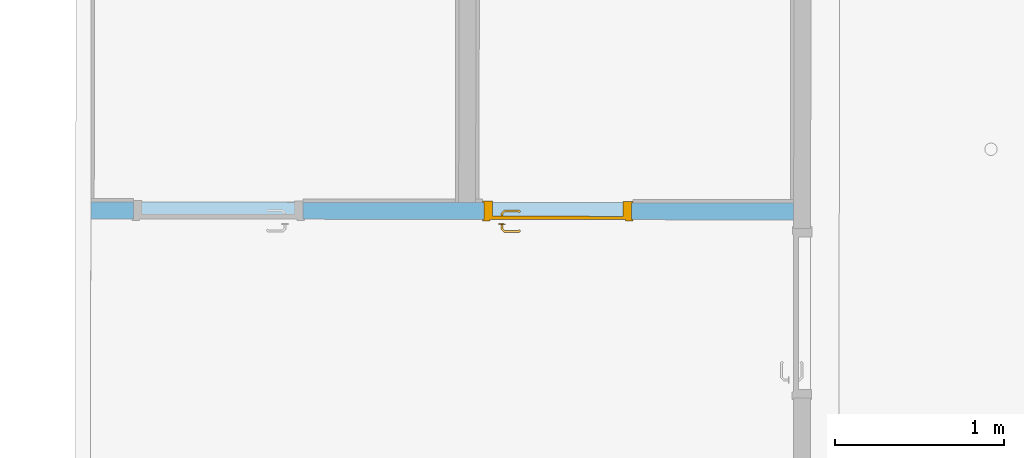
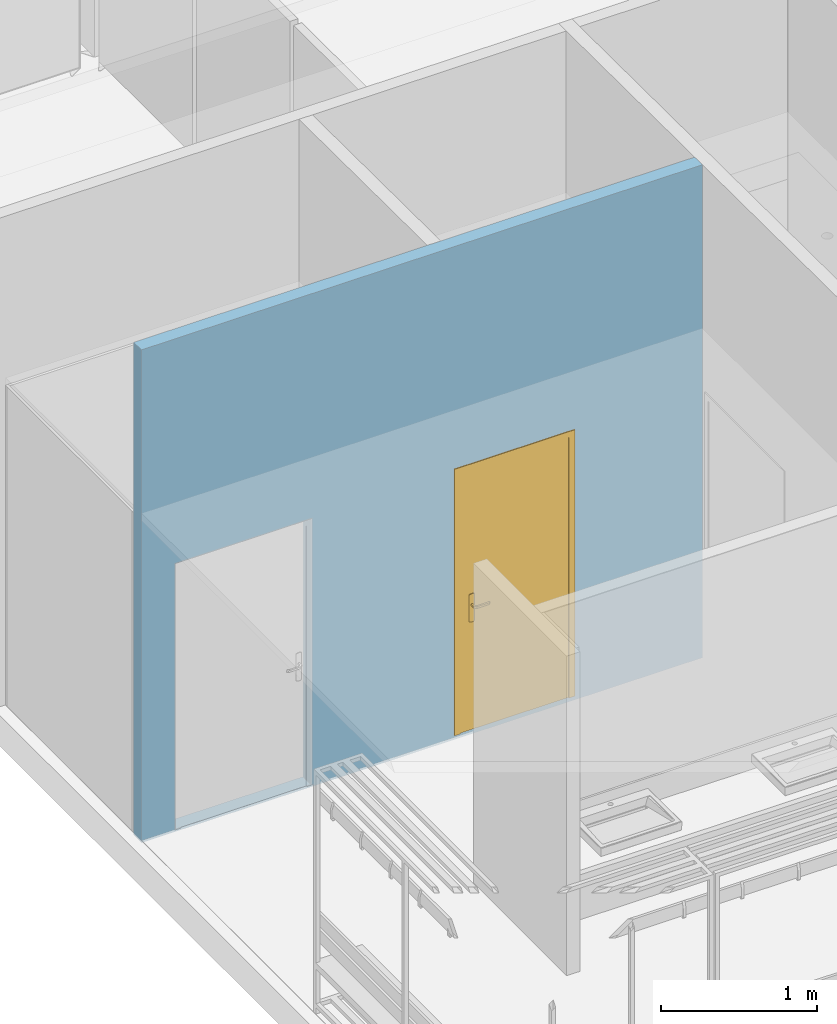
# One storey, part 23 of 43: 1 door, 2 openings, plus 1 element that does not belong to this part.
"""IFC2X3 building model written with IfcOpenShell, lengths in metres."""

from ifc_helpers import new_model, entity, si_unit, converted_unit, derived_unit, direction, frame, frame_2d, origin, place, context, subcontext, project, spatial, polyline, rectangle, outline, extrude, clip, bounded_halfspace, faceted_brep, source, transform, mapped, material, material_list, layer, layer_set, layer_usage, type_object, type_shapes, element, fill, save


model = new_model("IFC2X3")

# Units and contexts
model_context = context("Model", 3, precision=1e-05, world=origin(), true_north=direction((6.123233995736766e-17, 1.0)))
body_context = subcontext(model_context, "Body", "Model", "MODEL_VIEW")
ifc_project = project(units=[si_unit("LENGTHUNIT", "METRE"), si_unit("AREAUNIT", "SQUARE_METRE"), converted_unit("PLANEANGLEUNIT", "DEGREE", entity("IfcPlaneAngleMeasure", 0.017453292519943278), si_unit("PLANEANGLEUNIT", "RADIAN"), dimensions=[0, 0, 0, 0, 0, 0, 0]), derived_unit("THERMALTRANSMITTANCEUNIT", [(si_unit("MASSUNIT", "GRAM", prefix="KILO"), 1), (si_unit("THERMODYNAMICTEMPERATUREUNIT", "KELVIN"), -1), (si_unit("TIMEUNIT", "SECOND"), -3)])], contexts=[model_context])

# Site, building, storey
site_placement = place(None, frame((1253.6752467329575, 2072.143113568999, 91.49999999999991), z_axis=(0.0, 0.0, 1.0), x_axis=(0.7237211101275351, 0.6900925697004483, 0.0)))
site = spatial("IfcSite", under=ifc_project, at=site_placement, Name="Surface", CompositionType="ELEMENT")
building_placement = place(site_placement, origin())
building = spatial("IfcBuilding", under=site, at=building_placement, CompositionType="ELEMENT")
storey_placement = place(building_placement, frame((0.0, 0.0, -4.629999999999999)))
storey = spatial("IfcBuildingStorey", under=building, at=storey_placement, Name="rez de rue -1.10m", CompositionType="ELEMENT", Elevation=-4.629999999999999)

# Wall, openings, door
ifc_material_1 = material(Name="OMD_Cloison 100mm")
ifc_layer = layer(ifc_material_1, 0.1)
ifc_layer_set = layer_set([ifc_layer], Name="Mur de base:Cloison 100mm")
ifc_layer_usage = layer_usage(ifc_layer_set, "AXIS2", "NEGATIVE", 0.05)
wall_type = type_object("IfcWallType", Name="Mur de base:Cloison 100mm", PredefinedType="STANDARD", material=ifc_layer_set)
wall_placement = place(storey_placement, frame((163.2212890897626, 4.33212584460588, -0.019999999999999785), z_axis=(0.0, 0.0, 1.0), x_axis=(0.7227070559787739, -0.6911544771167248, 0.0)))
wall = element("IfcWallStandardCase", 1, at=wall_placement, inside=storey, type_object=wall_type, material=ifc_layer_usage, Name="Mur de base:Cloison 100mm", ObjectType="Mur de base:Cloison 100mm", context=body_context, shape_type="Clipping", body=[
    clip(clip(extrude(outline(polyline([(4.147726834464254, -0.05000000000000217), (4.14772683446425, 0.049999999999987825), (0.0, 0.04999999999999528), (2.3611774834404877e-05, -0.04999999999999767), (4.147726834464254, -0.05000000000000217)])), origin(), (0.0, 0.0, 1.0), 3.8572116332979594), bounded_halfspace(frame((4.147726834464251, -0.05000000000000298, 3.8572116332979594), z_axis=(0.0, 0.00890106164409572, 0.9999603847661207), x_axis=(-1.0, 0.0, 0.0)), False, frame((4.147726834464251, -0.05000000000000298, 3.8572116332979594)), polyline([(0.0, 0.0), (0.0, 0.09999999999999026), (-1.011275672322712, 0.09999999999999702), (-1.0105571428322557, 0.0), (0.0, 0.0)]))), bounded_halfspace(frame((0.0, 0.04999999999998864, 3.8559203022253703), z_axis=(-0.00012790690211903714, 0.008900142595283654, 0.9999603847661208), x_axis=(-0.9998967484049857, -0.014369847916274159, 0.0)), False, frame((0.0, 0.04999999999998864, 3.8559203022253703)), polyline([(0.0, 0.0), (2.361177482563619e-05, -0.09999999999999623), (3.1371696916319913, -0.10000000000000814), (3.136451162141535, 0.0), (2.270801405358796, 0.0), (2.1708014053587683, 0.0), (0.0, 0.0)]))),
])
opening_1_placement = place(wall_placement, frame((1.2515590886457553, 0.049999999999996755, 0.019999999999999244)))
element("IfcOpeningElement", 2, at=opening_1_placement, cuts=wall, Name="Grz_porte 1V recouvrement 30°:93x204:1", ObjectType="Opening", context=body_context, shape_type="SweptSolid", body=[
    extrude(rectangle(XDim=2.0749999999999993, YDim=0.999999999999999, at=frame_2d((1.0374999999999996, 0.4999999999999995), x_axis=(1.0, 0.0))), frame((0.0, 0.0, 0.0), z_axis=(0.0, -1.0, 0.0), x_axis=(0.0, 0.0, 1.0)), (0.0, 0.0, 1.0), 0.1),
])
opening_2_placement = place(wall_placement, frame((3.1908014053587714, 0.050000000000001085, 0.03499999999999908)))
opening_2 = element("IfcOpeningElement", 3, at=opening_2_placement, cuts=wall, Name="Grz_porte 1V recouvrement 30°:80x204:1", ObjectType="Opening", context=body_context, shape_type="SweptSolid", body=[
    extrude(rectangle(XDim=2.0749999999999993, YDim=0.8699999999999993, at=frame_2d((1.0374999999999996, 0.43500000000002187), x_axis=(1.0, 0.0))), frame((0.0, 0.0, 0.0), z_axis=(0.0, -1.0, 0.0), x_axis=(0.0, 0.0, 1.0)), (0.0, 0.0, 1.0), 0.1),
])
ifc_material_2 = material(Name="Porte - Poignée")
ifc_material_3 = material(Name="OMD_RAL1032")
ifc_material_list = material_list([ifc_material_2, ifc_material_3])
door_style = type_object("IfcDoorStyle", Name="Grz_porte 1V recouvrement 30°:80x204", ConstructionType="NOTDEFINED", OperationType="SINGLE_SWING_RIGHT", ParameterTakesPrecedence=False, Sizeable=False, material=ifc_material_list)
shared_shape = source(origin(), body_context, "Body", "Brep", [
    faceted_brep([(0.10297470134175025, 0.009999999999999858, 0.9922195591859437), (0.107025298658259, 0.009999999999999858, 0.992219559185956), (0.1110000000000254, 0.009999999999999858, 0.9930000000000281), (0.1110000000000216, 0.009999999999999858, 1.0069999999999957), (0.10702529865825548, 0.009999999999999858, 1.007780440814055), (0.10297470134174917, 0.009999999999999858, 1.0077804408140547), (0.0989999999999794, 0.009999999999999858, 1.0069999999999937), (0.09899999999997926, 0.009999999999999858, 0.9929999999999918), (0.1110000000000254, 0.03248520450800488, 0.9930000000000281), (0.11100000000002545, 0.03248520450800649, 1.0069999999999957), (0.10702529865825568, 0.03413157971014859, 1.007780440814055), (0.12083890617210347, 0.04794518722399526, 1.0077804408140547), (0.11916109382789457, 0.051995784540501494, 1.0077804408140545), (0.10297470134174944, 0.03580939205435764, 1.0077804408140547), (0.2106847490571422, 0.041467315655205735, 1.0077804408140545), (0.21354895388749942, 0.044331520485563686, 1.0077804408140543), (0.2058846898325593, 0.05199578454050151, 1.0077804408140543), (0.20420687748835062, 0.04794518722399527, 1.0077804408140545), (0.09899999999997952, 0.037455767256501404, 1.0069999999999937), (0.09899999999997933, 0.037455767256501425, 0.9929999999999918), (0.10297470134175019, 0.03580939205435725, 0.9922195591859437), (0.11916109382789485, 0.05199578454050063, 0.9922195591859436), (0.12083890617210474, 0.04794518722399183, 0.9922195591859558), (0.10702529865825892, 0.03413157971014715, 0.992219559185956), (0.21354895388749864, 0.0443315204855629, 0.9922195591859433), (0.2106847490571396, 0.04146731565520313, 0.9922195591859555), (0.20420687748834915, 0.047945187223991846, 0.9922195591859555), (0.20588468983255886, 0.051995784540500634, 0.9922195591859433), (0.12248528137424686, 0.04397048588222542, 0.993000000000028), (0.12248528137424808, 0.04397048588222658, 1.0069999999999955), (0.11751471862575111, 0.05597048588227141, 1.0069999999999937), (0.11751471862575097, 0.055970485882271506, 0.9929999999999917), (0.16252289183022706, 0.0439704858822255, 0.9930000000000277), (0.20256050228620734, 0.04397048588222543, 0.9930000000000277), (0.20256050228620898, 0.04397048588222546, 1.0069999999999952), (0.16252289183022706, 0.04397048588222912, 1.0069999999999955), (0.16252289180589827, 0.05012492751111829, 1.007878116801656), (0.20753106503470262, 0.05597048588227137, 1.0069999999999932), (0.16760057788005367, 0.05597048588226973, 1.006999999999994), (0.20753106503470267, 0.05597048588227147, 0.9929999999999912), (0.15744520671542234, 0.05597048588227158, 0.9929999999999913), (0.16252289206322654, 0.05012492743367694, 0.9921218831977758), (0.20787421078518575, 0.03865677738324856, 0.9930000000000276), (0.21635949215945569, 0.0471420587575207, 0.9929999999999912), (0.21635949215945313, 0.04714205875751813, 1.0069999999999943), (0.2078742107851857, 0.0386567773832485, 1.0069999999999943)], [[[0, 1, 2, 3, 4, 5, 6, 7]], [[3, 2, 8, 9]], [[9, 10, 4, 3]], [[10, 11, 12, 13, 5, 4]], [[14, 15, 16, 17]], [[13, 18, 6, 5]], [[7, 6, 18, 19]], [[19, 20, 0, 7]], [[20, 21, 22, 23, 1, 0]], [[24, 25, 26, 27]], [[23, 8, 2, 1]], [[9, 8, 28, 29]], [[29, 11, 10, 9]], [[12, 30, 18, 13]], [[19, 18, 30, 31]], [[31, 21, 20, 19]], [[22, 28, 8, 23]], [[29, 28, 32, 33, 34, 35]], [[11, 35, 36]], [[16, 37, 38]], [[30, 12, 38]], [[38, 12, 36]], [[36, 35, 17]], [[17, 16, 36]], [[35, 11, 29]], [[34, 17, 35]], [[11, 36, 12]], [[38, 36, 16]], [[31, 30, 38, 37, 39, 40]], [[40, 41, 21]], [[41, 40, 27]], [[21, 31, 40]], [[39, 27, 40]], [[41, 32, 22]], [[22, 21, 41]], [[26, 32, 41]], [[28, 22, 32]], [[32, 26, 33]], [[26, 41, 27]], [[42, 25, 24, 43, 44, 15, 14, 45]], [[34, 33, 42, 45]], [[45, 14, 17, 34]], [[15, 44, 37, 16]], [[39, 37, 44, 43]], [[43, 24, 27, 39]], [[25, 42, 33, 26]]]),
    faceted_brep([(0.10297470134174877, -0.030000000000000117, 1.0077804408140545), (0.107025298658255, -0.030000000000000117, 1.007780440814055), (0.1110000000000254, -0.030000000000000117, 1.0069999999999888), (0.11100000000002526, -0.030000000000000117, 0.9930000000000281), (0.10702529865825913, -0.030000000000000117, 0.992219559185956), (0.10297470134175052, -0.030000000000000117, 0.9922195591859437), (0.09899999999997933, -0.030000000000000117, 0.9929999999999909), (0.09899999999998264, -0.030000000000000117, 1.0069999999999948), (0.09899999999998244, -0.05765095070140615, 1.0069999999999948), (0.10297470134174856, -0.056004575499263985, 1.0077804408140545), (0.1190235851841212, -0.07205345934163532, 1.0077804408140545), (0.12070139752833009, -0.06800286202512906, 1.0077804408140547), (0.1070252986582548, -0.05432676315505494, 1.007780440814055), (0.2135218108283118, -0.06438919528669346, 1.007780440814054), (0.21065760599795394, -0.0615249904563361, 1.0077804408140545), (0.20417973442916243, -0.06800286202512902, 1.0077804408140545), (0.2058575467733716, -0.07205345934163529, 1.007780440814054), (0.11100000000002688, -0.052680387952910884, 1.0069999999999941), (0.11100000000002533, -0.052680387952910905, 0.9930000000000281), (0.10702529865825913, -0.05432676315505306, 0.992219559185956), (0.12070139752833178, -0.06800286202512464, 0.9922195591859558), (0.11902358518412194, -0.07205345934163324, 0.9922195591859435), (0.10297470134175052, -0.056004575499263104, 0.9922195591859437), (0.21065760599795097, -0.06152499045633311, 0.9922195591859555), (0.21352181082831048, -0.06438919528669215, 0.9922195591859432), (0.20585754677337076, -0.07205345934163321, 0.9922195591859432), (0.2041797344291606, -0.06800286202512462, 0.9922195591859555), (0.09899999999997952, -0.05765095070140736, 0.9929999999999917), (0.11737720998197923, -0.07602816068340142, 1.0069999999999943), (0.12234777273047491, -0.06402816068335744, 1.0069999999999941), (0.12234777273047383, -0.06402816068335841, 0.993000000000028), (0.11737720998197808, -0.07602816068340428, 0.9929999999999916), (0.1573076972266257, -0.07602816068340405, 1.0069999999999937), (0.16244056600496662, -0.07018280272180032, 1.0078781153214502), (0.20750392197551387, -0.0760281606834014, 1.0069999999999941), (0.1624405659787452, -0.06402816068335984, 1.0069999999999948), (0.2025333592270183, -0.06402816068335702, 1.0069999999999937), (0.20253335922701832, -0.06402816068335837, 0.9930000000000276), (0.16244056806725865, -0.0640281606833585, 0.9930000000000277), (0.16244056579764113, -0.07018280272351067, 0.9921218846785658), (0.20750392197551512, -0.07602816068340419, 0.9929999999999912), (0.16757342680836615, -0.07602816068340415, 0.9929999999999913), (0.20784706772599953, -0.058714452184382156, 1.0069999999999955), (0.21633234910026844, -0.06719973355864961, 1.0069999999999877), (0.21633234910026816, -0.06719973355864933, 0.9929999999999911), (0.2078470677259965, -0.058714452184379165, 0.993000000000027)], [[[0, 1, 2, 3, 4, 5, 6, 7]], [[8, 9, 0, 7]], [[9, 10, 11, 12, 1, 0]], [[13, 14, 15, 16]], [[12, 17, 2, 1]], [[3, 2, 17, 18]], [[18, 19, 4, 3]], [[19, 20, 21, 22, 5, 4]], [[23, 24, 25, 26]], [[22, 27, 6, 5]], [[7, 6, 27, 8]], [[28, 10, 9, 8]], [[11, 29, 17, 12]], [[18, 17, 29, 30]], [[30, 20, 19, 18]], [[21, 31, 27, 22]], [[8, 27, 31, 28]], [[32, 33, 10]], [[33, 32, 16]], [[10, 28, 32]], [[34, 16, 32]], [[33, 35, 11]], [[11, 10, 33]], [[15, 35, 33]], [[29, 11, 35]], [[35, 15, 36]], [[15, 33, 16]], [[29, 35, 36, 37, 38, 30]], [[20, 38, 39]], [[25, 40, 41]], [[31, 21, 41]], [[41, 21, 39]], [[39, 38, 26]], [[26, 25, 39]], [[38, 20, 30]], [[37, 26, 38]], [[20, 39, 21]], [[41, 39, 25]], [[28, 31, 41, 40, 34, 32]], [[42, 14, 13, 43, 44, 24, 23, 45]], [[43, 13, 16, 34]], [[14, 42, 36, 15]], [[37, 36, 42, 45]], [[45, 23, 26, 37]], [[24, 44, 40, 25]], [[34, 40, 44, 43]]]),
    faceted_brep([(0.1153527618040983, 0.004999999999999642, 0.8660039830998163), (0.12499999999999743, 0.004999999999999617, 0.8700000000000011), (0.12499999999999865, 0.004999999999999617, 1.0800000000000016), (0.11535276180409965, 0.004999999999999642, 1.0839960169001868), (0.10499999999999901, 0.004999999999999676, 1.085358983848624), (0.09464723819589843, 0.0049999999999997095, 1.0839960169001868), (0.08499999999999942, 0.004999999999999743, 1.0800000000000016), (0.0849999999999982, 0.004999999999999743, 0.8700000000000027), (0.09464723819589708, 0.0049999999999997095, 0.8660039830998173), (0.10499999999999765, 0.004999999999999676, 0.8646410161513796), (0.11535276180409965, 0.009999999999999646, 1.0839960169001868), (0.12499999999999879, 0.009999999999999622, 1.0800000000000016), (0.12499999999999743, 0.009999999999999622, 0.8700000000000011), (0.1153527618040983, 0.009999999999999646, 0.8660039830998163), (0.10499999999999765, 0.009999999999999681, 0.8646410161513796), (0.09464723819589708, 0.009999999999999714, 0.8660039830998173), (0.08499999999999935, 0.009999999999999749, 0.870000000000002), (0.08499999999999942, 0.009999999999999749, 1.0800000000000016), (0.09464723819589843, 0.009999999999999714, 1.0839960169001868), (0.10499999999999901, 0.009999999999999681, 1.085358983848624)], [[[0, 1, 2, 3, 4, 5, 6, 7, 8, 9]], [[10, 11, 12, 13, 14, 15, 16, 17, 18, 19]], [[11, 10, 3, 2]], [[3, 10, 19, 4]], [[19, 18, 5, 4]], [[18, 17, 6, 5]], [[7, 6, 17, 16]], [[16, 15, 8, 7]], [[8, 15, 14, 9]], [[14, 13, 0, 9]], [[13, 12, 1, 0]], [[2, 1, 12, 11]]]),
    faceted_brep([(0.11535276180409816, -0.03000000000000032, 0.8660039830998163), (0.12499999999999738, -0.030000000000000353, 0.8700000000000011), (0.12499999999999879, -0.030000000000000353, 1.0800000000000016), (0.11535276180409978, -0.03000000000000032, 1.0839960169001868), (0.10499999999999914, -0.030000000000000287, 1.085358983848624), (0.0946472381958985, -0.030000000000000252, 1.0839960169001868), (0.08499999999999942, -0.030000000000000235, 1.0800000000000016), (0.08499999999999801, -0.030000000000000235, 0.8700000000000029), (0.09464723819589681, -0.030000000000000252, 0.8660039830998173), (0.10499999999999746, -0.030000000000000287, 0.8646410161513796), (0.11535276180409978, -0.02500000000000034, 1.0839960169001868), (0.12499999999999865, -0.025000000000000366, 1.0800000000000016), (0.12499999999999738, -0.025000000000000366, 0.8700000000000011), (0.11535276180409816, -0.02500000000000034, 0.8660039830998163), (0.10499999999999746, -0.025000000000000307, 0.8646410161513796), (0.09464723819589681, -0.025000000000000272, 0.8660039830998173), (0.08499999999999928, -0.025000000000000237, 0.8700000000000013), (0.08499999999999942, -0.025000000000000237, 1.0800000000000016), (0.0946472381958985, -0.025000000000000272, 1.0839960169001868), (0.10499999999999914, -0.025000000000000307, 1.085358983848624)], [[[0, 1, 2, 3, 4, 5, 6, 7, 8, 9]], [[10, 11, 12, 13, 14, 15, 16, 17, 18, 19]], [[16, 15, 8, 7]], [[8, 15, 14, 9]], [[14, 13, 0, 9]], [[13, 12, 1, 0]], [[2, 1, 12, 11]], [[11, 10, 3, 2]], [[3, 10, 19, 4]], [[19, 18, 5, 4]], [[18, 17, 6, 5]], [[7, 6, 17, 16]]]),
    faceted_brep([(0.0, 0.0, 0.0), (0.0, 0.10000000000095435, 0.0), (-0.010000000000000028, 0.10000000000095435, 0.0), (-0.010000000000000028, 0.10800000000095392, 0.0), (0.04999999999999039, 0.10800000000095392, 0.0), (0.04999999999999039, 0.020000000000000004, 0.0), (0.03499999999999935, 0.020000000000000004, 0.0), (0.03499999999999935, -0.008000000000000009, 0.0), (-0.010000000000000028, -0.008000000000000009, 0.0), (-0.010000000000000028, 0.0, 0.0), (0.0, 0.0, 2.0749999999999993), (0.0, 0.10000000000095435, 2.0749999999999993), (0.8699999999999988, 0.10000000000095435, 2.0749999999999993), (0.8699999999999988, 0.10000000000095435, 0.0), (0.8799999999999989, 0.10000000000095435, 0.0), (0.8799999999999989, 0.10000000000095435, 2.084999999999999), (-0.00999999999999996, 0.10000000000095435, 2.084999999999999), (-0.00999999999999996, 0.10800000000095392, 2.084999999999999), (0.8799999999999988, 0.10800000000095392, 2.084999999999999), (0.8799999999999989, 0.10800000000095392, 0.0), (0.8200000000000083, 0.10800000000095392, 0.0), (0.8200000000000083, 0.10800000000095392, 2.0250000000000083), (0.04999999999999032, 0.10800000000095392, 2.025000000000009), (0.04999999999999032, 0.020000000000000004, 2.025000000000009), (0.8200000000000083, 0.020000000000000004, 2.0250000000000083), (0.8200000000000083, 0.020000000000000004, 0.0), (0.8349999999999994, 0.020000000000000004, 0.0), (0.8349999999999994, 0.020000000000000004, 2.0399999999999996), (0.03499999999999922, 0.020000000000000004, 2.0399999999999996), (0.03499999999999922, -0.008000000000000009, 2.0399999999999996), (0.8349999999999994, -0.008000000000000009, 2.0399999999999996), (0.8349999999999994, -0.008000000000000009, 0.0), (0.8799999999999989, -0.008000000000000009, 0.0), (0.8799999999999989, -0.008000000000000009, 2.084999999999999), (-0.00999999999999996, -0.008000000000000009, 2.084999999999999), (-0.00999999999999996, 0.0, 2.084999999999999), (0.8799999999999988, 0.0, 2.084999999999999), (0.8799999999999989, 0.0, 0.0), (0.8699999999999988, 0.0, 0.0), (0.869999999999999, 0.0, 2.0749999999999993)], [[[0, 1, 2, 3, 4, 5, 6, 7, 8, 9]], [[1, 0, 10, 11]], [[2, 1, 11, 12, 13, 14, 15, 16]], [[3, 2, 16, 17]], [[4, 3, 17, 18, 19, 20, 21, 22]], [[5, 4, 22, 23]], [[6, 5, 23, 24, 25, 26, 27, 28]], [[7, 6, 28, 29]], [[8, 7, 29, 30, 31, 32, 33, 34]], [[9, 8, 34, 35]], [[0, 9, 35, 36, 37, 38, 39, 10]], [[12, 39, 38, 13]], [[38, 37, 32, 31, 26, 25, 20, 19, 14, 13]], [[18, 15, 14, 19]], [[24, 21, 20, 25]], [[30, 27, 26, 31]], [[36, 33, 32, 37]], [[11, 10, 39, 12]], [[17, 16, 15, 18]], [[23, 22, 21, 24]], [[29, 28, 27, 30]], [[35, 34, 33, 36]]]),
    faceted_brep([(0.03499999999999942, 0.0, 2.0399999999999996), (0.03499999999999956, 0.0, 0.0), (0.8349999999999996, 0.0, 0.0), (0.8349999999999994, 0.0, 2.0399999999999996), (0.03499999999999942, 0.020000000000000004, 2.0399999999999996), (0.8349999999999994, 0.020000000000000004, 2.0399999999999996), (0.8349999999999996, 0.020000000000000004, 0.0), (0.03499999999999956, 0.020000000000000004, 0.0)], [[[0, 1, 2, 3]], [[4, 5, 6, 7]], [[1, 0, 4, 7]], [[2, 1, 7, 6]], [[3, 2, 6, 5]], [[0, 3, 5, 4]]]),
])
type_shapes(door_style, [shared_shape])
door_placement = place(opening_2_placement, frame((-0.8700000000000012, -0.10000000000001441, 0.0)))
door = element("IfcDoor", 4, at=door_placement, inside=storey, type_object=door_style, material=ifc_material_list, Name="Grz_porte 1V recouvrement 30°:80x204", ObjectType="Grz_porte 1V recouvrement 30°:80x204", OverallHeight=2.0749999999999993, OverallWidth=0.8700000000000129, context=body_context, shape_type="MappedRepresentation", body=[
    mapped(shared_shape, transform((0.0, 0.0, 0.0), scale=1.0)),
])
fill(opening_2, door)

save(model, "model.ifc")
